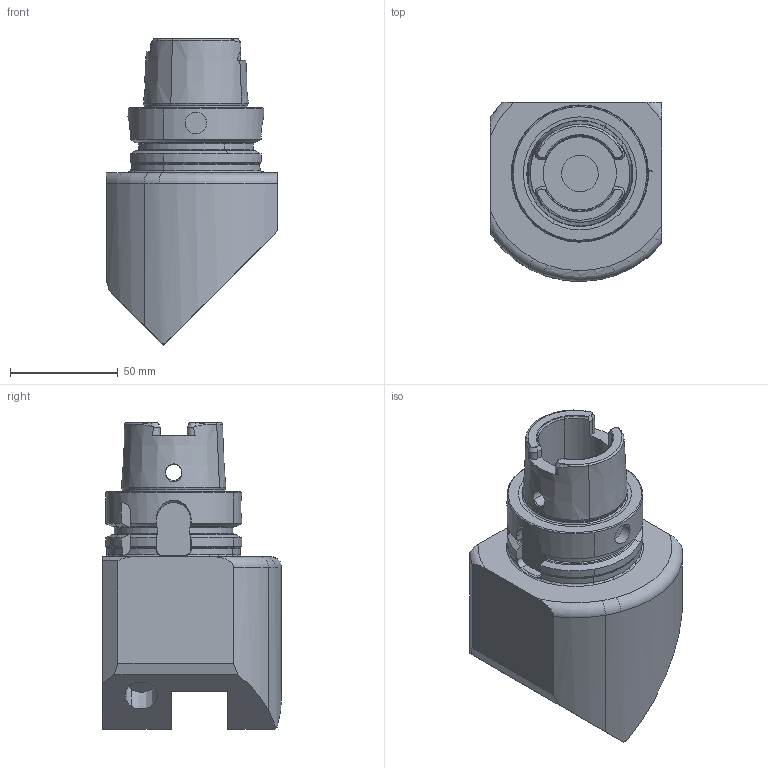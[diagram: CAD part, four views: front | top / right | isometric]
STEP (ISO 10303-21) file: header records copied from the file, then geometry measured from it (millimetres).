
FILE_DESCRIPTION(('CATIA V5 STEP','CAx-IF Rec.Pracs.--- Model Styling and Organization---1.2---2011-12-15'),'2;1');
FILE_NAME('\\nas01\drv1\utils\eitdev\rte\eit\transmagicconvert\db\out\635737616045163385\4505810D.stp','2015-07-29T07:13:29+00:00',('none'),('none'),'CATIA Version 5 Release 21 SP 5 (IN-10)','CATIA V5 STEP AP214','none');
FILE_SCHEMA(('AUTOMOTIVE_DESIGN { 1 0 10303 214 1 1 1 1 }'));
Length unit declared in the file: millimetre
Products named in the file (1): HSK A63WH-ASHR-25-45
Bounding box: 79.6 x 83 x 142 mm (x, y, z)
Volume: 398436.5 mm3; surface area: 52534.8 mm2
Topology: 1 solids, 1 shells, 240 faces, 627 edges, 394 vertices
Faces by surface type: plane 73, cone 58, cylinder 55, torus 34, bspline 16, extrusion 4
Entity records: 8200 total; most frequent: CARTESIAN_POINT 2968, ORIENTED_EDGE 1254, DIRECTION 764, EDGE_CURVE 627, VERTEX_POINT 394, AXIS2_PLACEMENT_3D 367, EDGE_LOOP 255, ADVANCED_FACE 240
